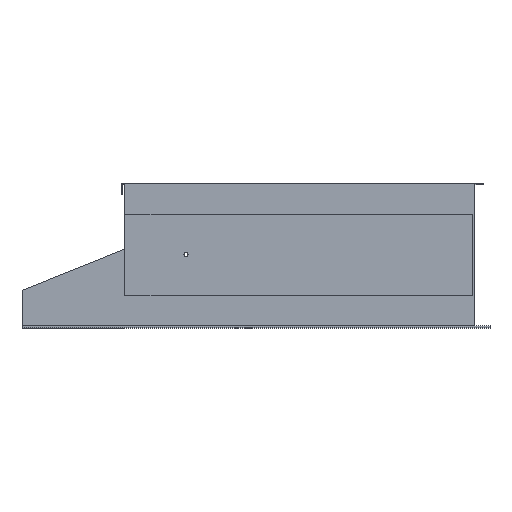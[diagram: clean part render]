
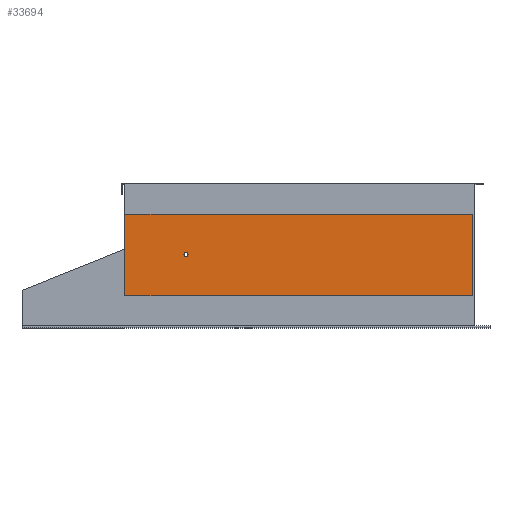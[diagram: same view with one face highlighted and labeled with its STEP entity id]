
A CAD part, top view. The second image highlights one B-rep face of the part: STEP entity #33694.
In plain terms, the highlighted planar face has unit normal (0, 0, 1).
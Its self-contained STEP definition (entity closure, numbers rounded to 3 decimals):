
#125 = PLANE ( 'NONE',  #37699 ) ;
#841 = LINE ( 'NONE', #1204, #57374 ) ;
#1031 = EDGE_LOOP ( 'NONE', ( #39915, #40683 ) ) ;
#1204 = CARTESIAN_POINT ( 'NONE',  ( 1107., 79., 325. ) ) ;
#3647 = VECTOR ( 'NONE', #17284, 1000. ) ;
#4521 = FACE_OUTER_BOUND ( 'NONE', #33734, .T. ) ;
#4739 = DIRECTION ( 'NONE',  ( 1., 0., 0. ) ) ;
#5231 = CARTESIAN_POINT ( 'NONE',  ( 403., 180., 325. ) ) ;
#5797 = DIRECTION ( 'NONE',  ( 1., 0., 0. ) ) ;
#8640 = VECTOR ( 'NONE', #46407, 1000. ) ;
#9821 = DIRECTION ( 'NONE',  ( 1., 0., 0. ) ) ;
#11341 = VECTOR ( 'NONE', #16606, 1000. ) ;
#12047 = CARTESIAN_POINT ( 'NONE',  ( 253., 79., 325. ) ) ;
#15241 = CARTESIAN_POINT ( 'NONE',  ( 1107., 279., 325. ) ) ;
#15386 = CIRCLE ( 'NONE', #25427, 5. ) ;
#15853 = DIRECTION ( 'NONE',  ( 0., 0., 1. ) ) ;
#16606 = DIRECTION ( 'NONE',  ( 0., -1., 0. ) ) ;
#17284 = DIRECTION ( 'NONE',  ( 0., 1., 0. ) ) ;
#17625 = EDGE_CURVE ( 'NONE', #51549, #31131, #47684, .T. ) ;
#22863 = CARTESIAN_POINT ( 'NONE',  ( 0., 0., 325. ) ) ;
#25427 = AXIS2_PLACEMENT_3D ( 'NONE', #42568, #15853, #46991 ) ;
#26348 = LINE ( 'NONE', #43939, #3647 ) ;
#26940 = CARTESIAN_POINT ( 'NONE',  ( 253., 79., 325. ) ) ;
#27348 = EDGE_CURVE ( 'NONE', #37229, #33709, #841, .T. ) ;
#28130 = EDGE_CURVE ( 'NONE', #33709, #54176, #26348, .T. ) ;
#28466 = EDGE_CURVE ( 'NONE', #54176, #46154, #42992, .T. ) ;
#30360 = EDGE_CURVE ( 'NONE', #31131, #51549, #15386, .T. ) ;
#31131 = VERTEX_POINT ( 'NONE', #45744 ) ;
#31767 = DIRECTION ( 'NONE',  ( 0., 0., 1. ) ) ;
#33694 = ADVANCED_FACE ( 'NONE', ( #52066, #4521 ), #125, .T. ) ;
#33709 = VERTEX_POINT ( 'NONE', #36227 ) ;
#33734 = EDGE_LOOP ( 'NONE', ( #41464, #42234, #44444, #45452 ) ) ;
#35713 = CARTESIAN_POINT ( 'NONE',  ( 253., 279., 325. ) ) ;
#36227 = CARTESIAN_POINT ( 'NONE',  ( 1107., 79., 325. ) ) ;
#36714 = DIRECTION ( 'NONE',  ( 0., 0., 1. ) ) ;
#37229 = VERTEX_POINT ( 'NONE', #26940 ) ;
#37699 = AXIS2_PLACEMENT_3D ( 'NONE', #22863, #31767, #4739 ) ;
#39915 = ORIENTED_EDGE ( 'NONE', *, *, #30360, .F. ) ;
#40683 = ORIENTED_EDGE ( 'NONE', *, *, #17625, .F. ) ;
#41464 = ORIENTED_EDGE ( 'NONE', *, *, #47795, .T. ) ;
#42234 = ORIENTED_EDGE ( 'NONE', *, *, #27348, .T. ) ;
#42568 = CARTESIAN_POINT ( 'NONE',  ( 403., 180., 325. ) ) ;
#42992 = LINE ( 'NONE', #15241, #8640 ) ;
#43939 = CARTESIAN_POINT ( 'NONE',  ( 1107., 79., 325. ) ) ;
#44444 = ORIENTED_EDGE ( 'NONE', *, *, #28130, .T. ) ;
#45452 = ORIENTED_EDGE ( 'NONE', *, *, #28466, .T. ) ;
#45744 = CARTESIAN_POINT ( 'NONE',  ( 408., 180., 325. ) ) ;
#46154 = VERTEX_POINT ( 'NONE', #35713 ) ;
#46407 = DIRECTION ( 'NONE',  ( -1., 0., 0. ) ) ;
#46961 = LINE ( 'NONE', #12047, #11341 ) ;
#46991 = DIRECTION ( 'NONE',  ( 1., 0., 0. ) ) ;
#47684 = CIRCLE ( 'NONE', #57591, 5. ) ;
#47795 = EDGE_CURVE ( 'NONE', #46154, #37229, #46961, .T. ) ;
#51549 = VERTEX_POINT ( 'NONE', #54987 ) ;
#52066 = FACE_BOUND ( 'NONE', #1031, .T. ) ;
#52482 = CARTESIAN_POINT ( 'NONE',  ( 1107., 279., 325. ) ) ;
#54176 = VERTEX_POINT ( 'NONE', #52482 ) ;
#54987 = CARTESIAN_POINT ( 'NONE',  ( 398., 180., 325. ) ) ;
#57374 = VECTOR ( 'NONE', #5797, 1000. ) ;
#57591 = AXIS2_PLACEMENT_3D ( 'NONE', #5231, #36714, #9821 ) ;
